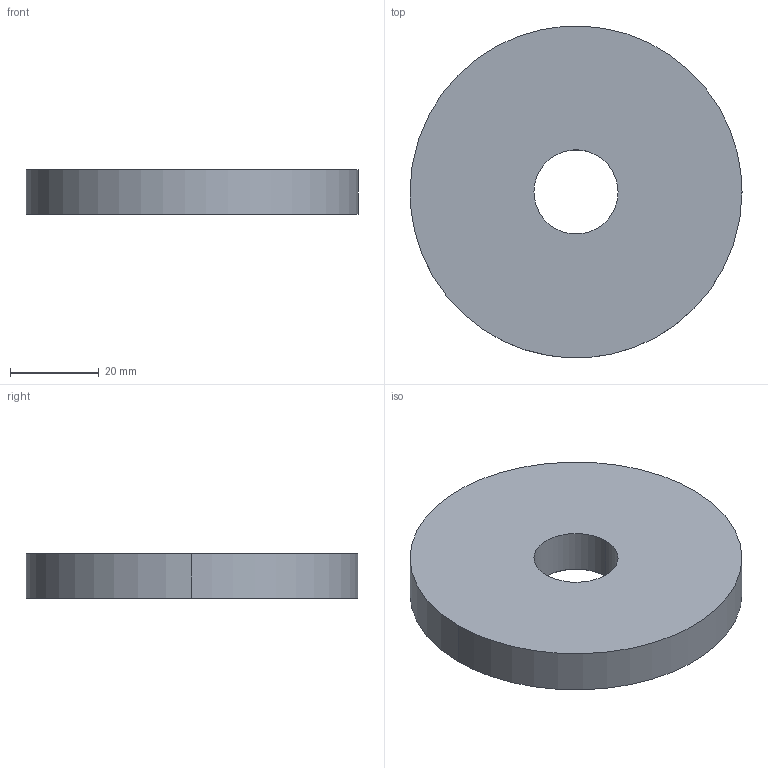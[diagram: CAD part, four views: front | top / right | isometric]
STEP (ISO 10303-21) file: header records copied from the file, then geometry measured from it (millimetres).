
FILE_DESCRIPTION(/* description */ (''),/* implementation_level */ '2;1');
FILE_NAME(/* name */ 'Material2',/* time_stamp */ '2020-06-25T00:31:06-06:00',/* author */ (''),/* organization */ (''),/* preprocessor_version */ 'ST-DEVELOPER v15',/* originating_system */ '',/* authorisation */ '');
FILE_SCHEMA (('AUTOMOTIVE_DESIGN'));
Length unit declared in the file: millimetre
Products named in the file (1): Document
Bounding box: 75 x 74.93 x 10 mm (x, y, z)
Volume: 41426 mm3; surface area: 11217.8 mm2
Topology: 1 solids, 1 shells, 8 faces, 16 edges, 10 vertices
Faces by surface type: bspline 6, plane 2
Entity records: 397 total; most frequent: CARTESIAN_POINT 265, ORIENTED_EDGE 32, EDGE_CURVE 16, EDGE_LOOP 10, VERTEX_POINT 10, ADVANCED_FACE 8, FACE_OUTER_BOUND 8, DIRECTION 6
